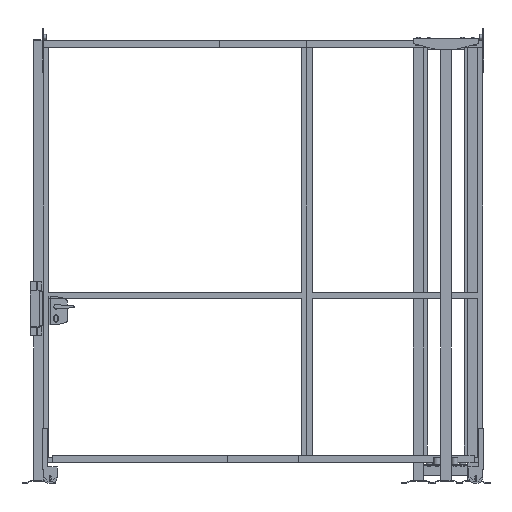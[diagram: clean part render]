
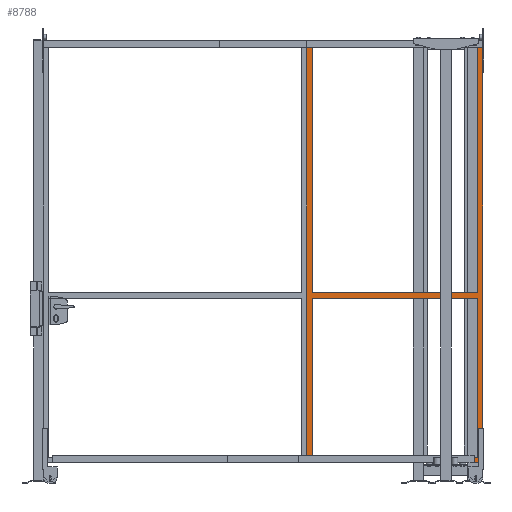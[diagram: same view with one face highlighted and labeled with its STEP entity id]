
A CAD part, front view. The second image highlights one B-rep face of the part: STEP entity #8788.
In plain terms, the highlighted planar face has unit normal (0, -1, 0).
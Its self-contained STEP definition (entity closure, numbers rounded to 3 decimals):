
#986=FACE_BOUND('',#1503,.T.);
#987=FACE_BOUND('',#1504,.T.);
#1038=FACE_OUTER_BOUND('',#1502,.T.);
#1502=EDGE_LOOP('',(#6193,#6194,#6195,#6196));
#1503=EDGE_LOOP('',(#6197,#6198,#6199,#6200));
#1504=EDGE_LOOP('',(#6201,#6202,#6203,#6204));
#2013=LINE('',#12480,#3175);
#2019=LINE('',#12492,#3181);
#2020=LINE('',#12495,#3182);
#2023=LINE('',#12502,#3185);
#2024=LINE('',#12504,#3186);
#2025=LINE('',#12506,#3187);
#2026=LINE('',#12507,#3188);
#2027=LINE('',#12509,#3189);
#2028=LINE('',#12511,#3190);
#2029=LINE('',#12512,#3191);
#2030=LINE('',#12514,#3192);
#2031=LINE('',#12515,#3193);
#3175=VECTOR('',#9974,1.);
#3181=VECTOR('',#9982,1.);
#3182=VECTOR('',#9985,1.);
#3185=VECTOR('',#9990,1.);
#3186=VECTOR('',#9991,1.);
#3187=VECTOR('',#9992,1.);
#3188=VECTOR('',#9993,1.);
#3189=VECTOR('',#9994,1.);
#3190=VECTOR('',#9995,1.);
#3191=VECTOR('',#9996,1.);
#3192=VECTOR('',#9997,1.);
#3193=VECTOR('',#9998,1.);
#4336=VERTEX_POINT('',#12476);
#4338=VERTEX_POINT('',#12479);
#4341=VERTEX_POINT('',#12486);
#4343=VERTEX_POINT('',#12490);
#4344=VERTEX_POINT('',#12494);
#4346=VERTEX_POINT('',#12500);
#4347=VERTEX_POINT('',#12501);
#4348=VERTEX_POINT('',#12503);
#4349=VERTEX_POINT('',#12505);
#4350=VERTEX_POINT('',#12508);
#4351=VERTEX_POINT('',#12510);
#4352=VERTEX_POINT('',#12513);
#5079=EDGE_CURVE('',#4336,#4338,#2013,.T.);
#5085=EDGE_CURVE('',#4343,#4341,#2019,.T.);
#5086=EDGE_CURVE('',#4344,#4341,#2020,.T.);
#5089=EDGE_CURVE('',#4346,#4347,#2023,.T.);
#5090=EDGE_CURVE('',#4348,#4347,#2024,.T.);
#5091=EDGE_CURVE('',#4349,#4348,#2025,.T.);
#5092=EDGE_CURVE('',#4346,#4349,#2026,.T.);
#5093=EDGE_CURVE('',#4336,#4350,#2027,.T.);
#5094=EDGE_CURVE('',#4350,#4351,#2028,.T.);
#5095=EDGE_CURVE('',#4351,#4338,#2029,.T.);
#5096=EDGE_CURVE('',#4343,#4352,#2030,.T.);
#5097=EDGE_CURVE('',#4352,#4344,#2031,.T.);
#6193=ORIENTED_EDGE('',*,*,#5089,.T.);
#6194=ORIENTED_EDGE('',*,*,#5090,.F.);
#6195=ORIENTED_EDGE('',*,*,#5091,.F.);
#6196=ORIENTED_EDGE('',*,*,#5092,.F.);
#6197=ORIENTED_EDGE('',*,*,#5093,.T.);
#6198=ORIENTED_EDGE('',*,*,#5094,.T.);
#6199=ORIENTED_EDGE('',*,*,#5095,.T.);
#6200=ORIENTED_EDGE('',*,*,#5079,.F.);
#6201=ORIENTED_EDGE('',*,*,#5085,.F.);
#6202=ORIENTED_EDGE('',*,*,#5096,.T.);
#6203=ORIENTED_EDGE('',*,*,#5097,.T.);
#6204=ORIENTED_EDGE('',*,*,#5086,.T.);
#8390=PLANE('',#9300);
#8788=ADVANCED_FACE('',(#1038,#986,#987),#8390,.F.);
#9300=AXIS2_PLACEMENT_3D('',#12499,#9988,#9989);
#9974=DIRECTION('',(1.,0.,0.));
#9982=DIRECTION('',(-1.,0.,0.));
#9985=DIRECTION('',(0.,0.,1.));
#9988=DIRECTION('center_axis',(0.,1.,0.));
#9989=DIRECTION('ref_axis',(0.,0.,1.));
#9990=DIRECTION('',(0.,0.,-1.));
#9991=DIRECTION('',(-1.,0.,0.));
#9992=DIRECTION('',(0.,0.,-1.));
#9993=DIRECTION('',(1.,0.,0.));
#9994=DIRECTION('',(0.,0.,1.));
#9995=DIRECTION('',(1.,0.,0.));
#9996=DIRECTION('',(0.,0.,-1.));
#9997=DIRECTION('',(0.,0.,-1.));
#9998=DIRECTION('',(-1.,0.,0.));
#12476=CARTESIAN_POINT('',(30.,0.,965.));
#12479=CARTESIAN_POINT('',(970.,0.,965.));
#12480=CARTESIAN_POINT('',(500.,0.,965.));
#12486=CARTESIAN_POINT('',(30.,0.,935.));
#12490=CARTESIAN_POINT('',(970.,0.,935.));
#12492=CARTESIAN_POINT('',(500.,0.,935.));
#12494=CARTESIAN_POINT('',(30.,0.,30.));
#12495=CARTESIAN_POINT('',(30.,0.,1200.));
#12499=CARTESIAN_POINT('Origin',(500.,0.,1200.));
#12500=CARTESIAN_POINT('',(0.,0.,2400.));
#12501=CARTESIAN_POINT('',(0.,0.,0.));
#12502=CARTESIAN_POINT('',(0.,0.,1200.));
#12503=CARTESIAN_POINT('',(1000.,0.,0.));
#12504=CARTESIAN_POINT('',(500.,0.,0.));
#12505=CARTESIAN_POINT('',(1000.,0.,2400.));
#12506=CARTESIAN_POINT('',(1000.,0.,1200.));
#12507=CARTESIAN_POINT('',(500.,0.,2400.));
#12508=CARTESIAN_POINT('',(30.,0.,2370.));
#12509=CARTESIAN_POINT('',(30.,0.,1200.));
#12510=CARTESIAN_POINT('',(970.,0.,2370.));
#12511=CARTESIAN_POINT('',(500.,0.,2370.));
#12512=CARTESIAN_POINT('',(970.,0.,1200.));
#12513=CARTESIAN_POINT('',(970.,0.,30.));
#12514=CARTESIAN_POINT('',(970.,0.,1200.));
#12515=CARTESIAN_POINT('',(500.,0.,30.));
